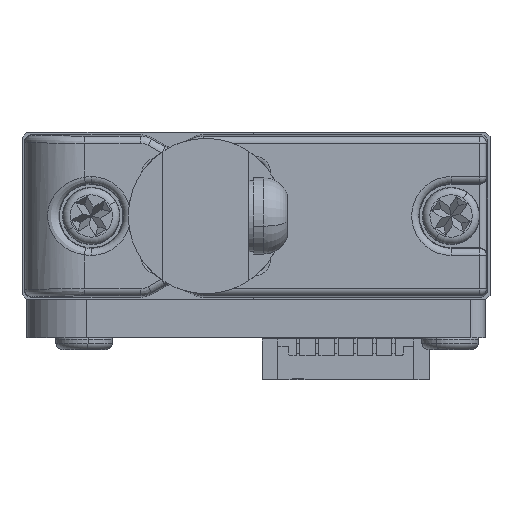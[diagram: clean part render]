
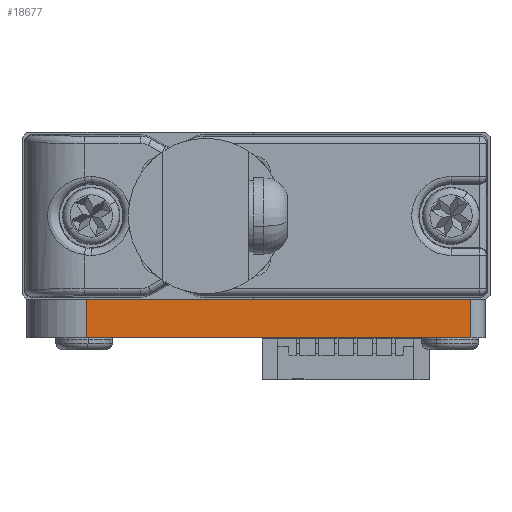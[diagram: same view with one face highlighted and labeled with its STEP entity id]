
A CAD part, left-side view. The second image highlights one B-rep face of the part: STEP entity #18677.
In plain terms, the highlighted planar face has unit normal (-1, 0, 0).
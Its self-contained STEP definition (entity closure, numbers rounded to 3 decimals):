
#1512 = EDGE_CURVE ( 'NONE', #8825, #24342, #26056, .T. ) ;
#2278 = FACE_OUTER_BOUND ( 'NONE', #4463, .T. ) ;
#4463 = EDGE_LOOP ( 'NONE', ( #9738, #38586, #47851, #39359 ) ) ;
#6681 = DIRECTION ( 'NONE',  ( 0., 0., -1. ) ) ;
#6723 = DIRECTION ( 'NONE',  ( 1., 0., 0. ) ) ;
#6843 = PLANE ( 'NONE',  #23054 ) ;
#7580 = CARTESIAN_POINT ( 'NONE',  ( -11.5, -19.4, -3.5 ) ) ;
#7620 = EDGE_CURVE ( 'NONE', #8825, #23796, #20225, .T. ) ;
#8378 = EDGE_CURVE ( 'NONE', #32107, #23796, #38987, .T. ) ;
#8825 = VERTEX_POINT ( 'NONE', #48542 ) ;
#9738 = ORIENTED_EDGE ( 'NONE', *, *, #25403, .T. ) ;
#12482 = VECTOR ( 'NONE', #40244, 1000. ) ;
#16543 = VECTOR ( 'NONE', #16766, 1000. ) ;
#16766 = DIRECTION ( 'NONE',  ( 0., 0., -1. ) ) ;
#16821 = CARTESIAN_POINT ( 'NONE',  ( -11.5, -2.7, -3.5 ) ) ;
#18677 = ADVANCED_FACE ( 'NONE', ( #2278 ), #6843, .F. ) ;
#18851 = DIRECTION ( 'NONE',  ( 0., -1., 0. ) ) ;
#20225 = LINE ( 'NONE', #38196, #39671 ) ;
#22838 = LINE ( 'NONE', #28548, #12482 ) ;
#23054 = AXIS2_PLACEMENT_3D ( 'NONE', #7580, #6723, #6681 ) ;
#23796 = VERTEX_POINT ( 'NONE', #36174 ) ;
#24342 = VERTEX_POINT ( 'NONE', #35602 ) ;
#25403 = EDGE_CURVE ( 'NONE', #24342, #32107, #22838, .T. ) ;
#26056 = LINE ( 'NONE', #16821, #16543 ) ;
#28548 = CARTESIAN_POINT ( 'NONE',  ( -11.5, -19.4, -5.1 ) ) ;
#32107 = VERTEX_POINT ( 'NONE', #42051 ) ;
#35602 = CARTESIAN_POINT ( 'NONE',  ( -11.5, -2.7, -5.1 ) ) ;
#36174 = CARTESIAN_POINT ( 'NONE',  ( -11.5, -18.8, -3.5 ) ) ;
#36847 = CARTESIAN_POINT ( 'NONE',  ( -11.5, -18.8, -3.5 ) ) ;
#37753 = VECTOR ( 'NONE', #48592, 1000. ) ;
#38196 = CARTESIAN_POINT ( 'NONE',  ( -11.5, -19.4, -3.5 ) ) ;
#38586 = ORIENTED_EDGE ( 'NONE', *, *, #8378, .T. ) ;
#38987 = LINE ( 'NONE', #36847, #37753 ) ;
#39359 = ORIENTED_EDGE ( 'NONE', *, *, #1512, .T. ) ;
#39671 = VECTOR ( 'NONE', #18851, 1000. ) ;
#40244 = DIRECTION ( 'NONE',  ( 0., -1., 0. ) ) ;
#42051 = CARTESIAN_POINT ( 'NONE',  ( -11.5, -18.8, -5.1 ) ) ;
#47851 = ORIENTED_EDGE ( 'NONE', *, *, #7620, .F. ) ;
#48542 = CARTESIAN_POINT ( 'NONE',  ( -11.5, -2.7, -3.5 ) ) ;
#48592 = DIRECTION ( 'NONE',  ( 0., 0., 1. ) ) ;
